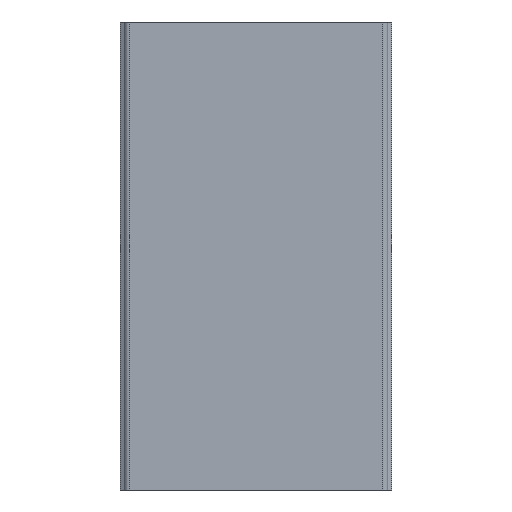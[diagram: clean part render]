
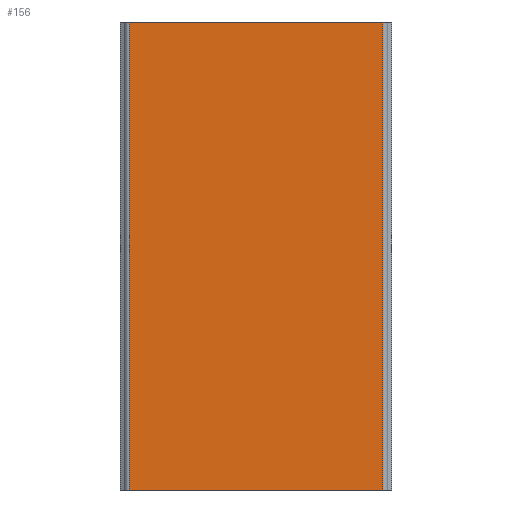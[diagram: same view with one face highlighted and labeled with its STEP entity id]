
A CAD part, front view. The second image highlights one B-rep face of the part: STEP entity #156.
In plain terms, the highlighted planar face has unit normal (0, -1, 0).
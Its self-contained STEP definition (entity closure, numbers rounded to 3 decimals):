
#64 = EDGE_CURVE ( 'NONE', #1012, #103, #210, .T. ) ;
#75 = EDGE_LOOP ( 'NONE', ( #96, #116, #478, #664 ) ) ;
#96 = ORIENTED_EDGE ( 'NONE', *, *, #146, .T. ) ;
#98 = EDGE_CURVE ( 'NONE', #1025, #1012, #507, .T. ) ;
#103 = VERTEX_POINT ( 'NONE', #538 ) ;
#116 = ORIENTED_EDGE ( 'NONE', *, *, #64, .F. ) ;
#146 = EDGE_CURVE ( 'NONE', #176, #103, #814, .T. ) ;
#156 = ADVANCED_FACE ( 'NONE', ( #846 ), #847, .F. ) ;
#174 = EDGE_CURVE ( 'NONE', #1025, #176, #301, .T. ) ;
#176 = VERTEX_POINT ( 'NONE', #320 ) ;
#210 = LINE ( 'NONE', #214, #215 ) ;
#214 = CARTESIAN_POINT ( 'NONE',  ( 13.566, 0., 50. ) ) ;
#215 = VECTOR ( 'NONE', #216, 1000. ) ;
#216 = DIRECTION ( 'NONE',  ( 0., 0., -1. ) ) ;
#301 = LINE ( 'NONE', #302, #303 ) ;
#302 = CARTESIAN_POINT ( 'NONE',  ( -13.566, 0., 50. ) ) ;
#303 = VECTOR ( 'NONE', #304, 1000. ) ;
#304 = DIRECTION ( 'NONE',  ( 0., 0., -1. ) ) ;
#320 = CARTESIAN_POINT ( 'NONE',  ( -13.566, 0., 0. ) ) ;
#478 = ORIENTED_EDGE ( 'NONE', *, *, #98, .F. ) ;
#507 = LINE ( 'NONE', #508, #509 ) ;
#508 = CARTESIAN_POINT ( 'NONE',  ( -13.566, 0., 50. ) ) ;
#509 = VECTOR ( 'NONE', #510, 1000. ) ;
#510 = DIRECTION ( 'NONE',  ( 1., 0., 0. ) ) ;
#538 = CARTESIAN_POINT ( 'NONE',  ( 13.566, 0., 0. ) ) ;
#664 = ORIENTED_EDGE ( 'NONE', *, *, #174, .T. ) ;
#752 = CARTESIAN_POINT ( 'NONE',  ( 13.566, 0., 50. ) ) ;
#814 = LINE ( 'NONE', #815, #816 ) ;
#815 = CARTESIAN_POINT ( 'NONE',  ( -13.566, 0., 0. ) ) ;
#816 = VECTOR ( 'NONE', #817, 1000. ) ;
#817 = DIRECTION ( 'NONE',  ( 1., 0., 0. ) ) ;
#846 = FACE_OUTER_BOUND ( 'NONE', #75, .T. ) ;
#847 = PLANE ( 'NONE',  #848 ) ;
#848 = AXIS2_PLACEMENT_3D ( 'NONE', #849, #850, #854 ) ;
#849 = CARTESIAN_POINT ( 'NONE',  ( -13.566, 0., 50. ) ) ;
#850 = DIRECTION ( 'NONE',  ( 0., 1., 0. ) ) ;
#854 = DIRECTION ( 'NONE',  ( 0., 0., 1. ) ) ;
#855 = CARTESIAN_POINT ( 'NONE',  ( -13.566, 0., 50. ) ) ;
#1012 = VERTEX_POINT ( 'NONE', #752 ) ;
#1025 = VERTEX_POINT ( 'NONE', #855 ) ;
